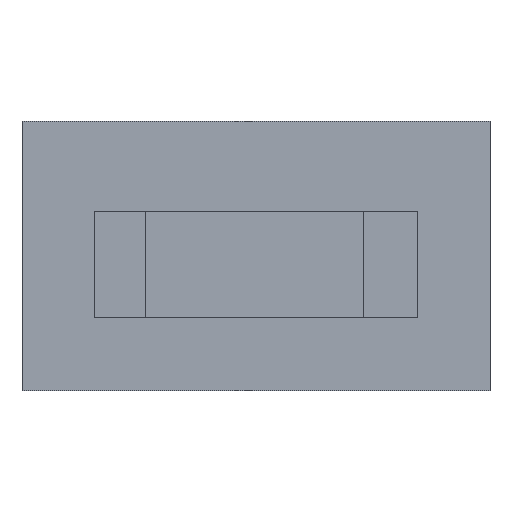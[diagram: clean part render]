
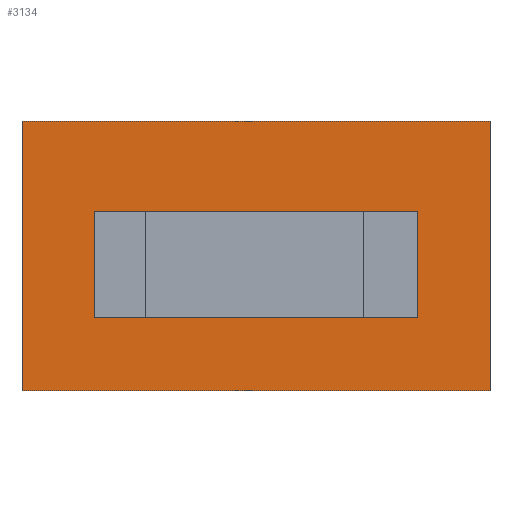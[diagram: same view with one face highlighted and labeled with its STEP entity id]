
A CAD part, front view. The second image highlights one B-rep face of the part: STEP entity #3134.
In plain terms, the highlighted planar face has unit normal (0, -1, 0).
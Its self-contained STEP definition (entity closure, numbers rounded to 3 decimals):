
#43 = PLANE('',#44);
#44 = AXIS2_PLACEMENT_3D('',#45,#46,#47);
#45 = CARTESIAN_POINT('',(-8.959,-40.,-0.035));
#46 = DIRECTION('',(0.,0.,1.));
#47 = DIRECTION('',(1.,0.,0.));
#68 = VERTEX_POINT('',#69);
#69 = CARTESIAN_POINT('',(8.986,-39.904,
    -0.035));
#83 = PLANE('',#84);
#84 = AXIS2_PLACEMENT_3D('',#85,#86,#87);
#85 = CARTESIAN_POINT('',(8.986,-40.,-0.035));
#86 = DIRECTION('',(1.,0.,0.));
#87 = DIRECTION('',(0.,0.,-1.));
#95 = EDGE_CURVE('',#96,#68,#98,.T.);
#96 = VERTEX_POINT('',#97);
#97 = CARTESIAN_POINT('',(-8.959,-39.904,
    -0.035));
#98 = SURFACE_CURVE('',#99,(#103,#110),.PCURVE_S1.);
#99 = LINE('',#100,#101);
#100 = CARTESIAN_POINT('',(2.02,-39.904,
    -0.035));
#101 = VECTOR('',#102,1.);
#102 = DIRECTION('',(1.,0.,0.));
#103 = PCURVE('',#43,#104);
#104 = DEFINITIONAL_REPRESENTATION('',(#105),#109);
#105 = LINE('',#106,#107);
#106 = CARTESIAN_POINT('',(10.98,0.096));
#107 = VECTOR('',#108,1.);
#108 = DIRECTION('',(1.,0.));
#109 = ( GEOMETRIC_REPRESENTATION_CONTEXT(2) 
PARAMETRIC_REPRESENTATION_CONTEXT() REPRESENTATION_CONTEXT('2D SPACE',''
  ) );
#110 = PCURVE('',#111,#116);
#111 = PLANE('',#112);
#112 = AXIS2_PLACEMENT_3D('',#113,#114,#115);
#113 = CARTESIAN_POINT('',(13.,-39.904,5.));
#114 = DIRECTION('',(0.,-1.,0.));
#115 = DIRECTION('',(-1.,0.,0.));
#116 = DEFINITIONAL_REPRESENTATION('',(#117),#121);
#117 = LINE('',#118,#119);
#118 = CARTESIAN_POINT('',(10.98,5.035));
#119 = VECTOR('',#120,1.);
#120 = DIRECTION('',(-1.,0.));
#121 = ( GEOMETRIC_REPRESENTATION_CONTEXT(2) 
PARAMETRIC_REPRESENTATION_CONTEXT() REPRESENTATION_CONTEXT('2D SPACE',''
  ) );
#137 = PLANE('',#138);
#138 = AXIS2_PLACEMENT_3D('',#139,#140,#141);
#139 = CARTESIAN_POINT('',(-8.959,-40.,-5.935));
#140 = DIRECTION('',(-1.,0.,0.));
#141 = DIRECTION('',(0.,0.,1.));
#176 = EDGE_CURVE('',#177,#96,#179,.T.);
#177 = VERTEX_POINT('',#178);
#178 = CARTESIAN_POINT('',(-8.959,-39.904,
    -5.935));
#179 = SURFACE_CURVE('',#180,(#184,#191),.PCURVE_S1.);
#180 = LINE('',#181,#182);
#181 = CARTESIAN_POINT('',(-8.959,-39.904,
    -0.468));
#182 = VECTOR('',#183,1.);
#183 = DIRECTION('',(0.,0.,1.));
#184 = PCURVE('',#137,#185);
#185 = DEFINITIONAL_REPRESENTATION('',(#186),#190);
#186 = LINE('',#187,#188);
#187 = CARTESIAN_POINT('',(5.468,0.096));
#188 = VECTOR('',#189,1.);
#189 = DIRECTION('',(1.,0.));
#190 = ( GEOMETRIC_REPRESENTATION_CONTEXT(2) 
PARAMETRIC_REPRESENTATION_CONTEXT() REPRESENTATION_CONTEXT('2D SPACE',''
  ) );
#191 = PCURVE('',#111,#192);
#192 = DEFINITIONAL_REPRESENTATION('',(#193),#197);
#193 = LINE('',#194,#195);
#194 = CARTESIAN_POINT('',(21.959,5.468));
#195 = VECTOR('',#196,1.);
#196 = DIRECTION('',(0.,-1.));
#197 = ( GEOMETRIC_REPRESENTATION_CONTEXT(2) 
PARAMETRIC_REPRESENTATION_CONTEXT() REPRESENTATION_CONTEXT('2D SPACE',''
  ) );
#213 = PLANE('',#214);
#214 = AXIS2_PLACEMENT_3D('',#215,#216,#217);
#215 = CARTESIAN_POINT('',(8.986,-40.,-5.935));
#216 = DIRECTION('',(0.,0.,-1.));
#217 = DIRECTION('',(-1.,0.,0.));
#252 = EDGE_CURVE('',#253,#177,#255,.T.);
#253 = VERTEX_POINT('',#254);
#254 = CARTESIAN_POINT('',(8.986,-39.904,
    -5.935));
#255 = SURFACE_CURVE('',#256,(#260,#267),.PCURVE_S1.);
#256 = LINE('',#257,#258);
#257 = CARTESIAN_POINT('',(10.993,-39.904,
    -5.935));
#258 = VECTOR('',#259,1.);
#259 = DIRECTION('',(-1.,0.,0.));
#260 = PCURVE('',#213,#261);
#261 = DEFINITIONAL_REPRESENTATION('',(#262),#266);
#262 = LINE('',#263,#264);
#263 = CARTESIAN_POINT('',(-2.007,0.096));
#264 = VECTOR('',#265,1.);
#265 = DIRECTION('',(1.,0.));
#266 = ( GEOMETRIC_REPRESENTATION_CONTEXT(2) 
PARAMETRIC_REPRESENTATION_CONTEXT() REPRESENTATION_CONTEXT('2D SPACE',''
  ) );
#267 = PCURVE('',#111,#268);
#268 = DEFINITIONAL_REPRESENTATION('',(#269),#273);
#269 = LINE('',#270,#271);
#270 = CARTESIAN_POINT('',(2.007,10.935));
#271 = VECTOR('',#272,1.);
#272 = DIRECTION('',(1.,0.));
#273 = ( GEOMETRIC_REPRESENTATION_CONTEXT(2) 
PARAMETRIC_REPRESENTATION_CONTEXT() REPRESENTATION_CONTEXT('2D SPACE',''
  ) );
#321 = EDGE_CURVE('',#68,#253,#322,.T.);
#322 = SURFACE_CURVE('',#323,(#327,#334),.PCURVE_S1.);
#323 = LINE('',#324,#325);
#324 = CARTESIAN_POINT('',(8.986,-39.904,2.482
    ));
#325 = VECTOR('',#326,1.);
#326 = DIRECTION('',(0.,0.,-1.));
#327 = PCURVE('',#83,#328);
#328 = DEFINITIONAL_REPRESENTATION('',(#329),#333);
#329 = LINE('',#330,#331);
#330 = CARTESIAN_POINT('',(-2.518,0.096));
#331 = VECTOR('',#332,1.);
#332 = DIRECTION('',(1.,0.));
#333 = ( GEOMETRIC_REPRESENTATION_CONTEXT(2) 
PARAMETRIC_REPRESENTATION_CONTEXT() REPRESENTATION_CONTEXT('2D SPACE',''
  ) );
#334 = PCURVE('',#111,#335);
#335 = DEFINITIONAL_REPRESENTATION('',(#336),#340);
#336 = LINE('',#337,#338);
#337 = CARTESIAN_POINT('',(4.014,2.518));
#338 = VECTOR('',#339,1.);
#339 = DIRECTION('',(0.,1.));
#340 = ( GEOMETRIC_REPRESENTATION_CONTEXT(2) 
PARAMETRIC_REPRESENTATION_CONTEXT() REPRESENTATION_CONTEXT('2D SPACE',''
  ) );
#1746 = PLANE('',#1747);
#1747 = AXIS2_PLACEMENT_3D('',#1748,#1749,#1750);
#1748 = CARTESIAN_POINT('',(0.,-12.852,5.));
#1749 = DIRECTION('',(0.,0.,1.));
#1750 = DIRECTION('',(1.,0.,0.));
#1858 = PLANE('',#1859);
#1859 = AXIS2_PLACEMENT_3D('',#1860,#1861,#1862);
#1860 = CARTESIAN_POINT('',(0.,-12.852,-10.));
#1861 = DIRECTION('',(0.,0.,-1.));
#1862 = DIRECTION('',(-1.,0.,0.));
#2417 = EDGE_CURVE('',#2418,#2420,#2422,.T.);
#2418 = VERTEX_POINT('',#2419);
#2419 = CARTESIAN_POINT('',(13.,-39.904,-10.));
#2420 = VERTEX_POINT('',#2421);
#2421 = CARTESIAN_POINT('',(-13.,-39.904,-10.));
#2422 = SURFACE_CURVE('',#2423,(#2427,#2434),.PCURVE_S1.);
#2423 = LINE('',#2424,#2425);
#2424 = CARTESIAN_POINT('',(-13.,-39.904,-10.));
#2425 = VECTOR('',#2426,1.);
#2426 = DIRECTION('',(-1.,0.,0.));
#2427 = PCURVE('',#1858,#2428);
#2428 = DEFINITIONAL_REPRESENTATION('',(#2429),#2433);
#2429 = LINE('',#2430,#2431);
#2430 = CARTESIAN_POINT('',(13.,-27.052));
#2431 = VECTOR('',#2432,1.);
#2432 = DIRECTION('',(1.,0.));
#2433 = ( GEOMETRIC_REPRESENTATION_CONTEXT(2) 
PARAMETRIC_REPRESENTATION_CONTEXT() REPRESENTATION_CONTEXT('2D SPACE',''
  ) );
#2434 = PCURVE('',#111,#2435);
#2435 = DEFINITIONAL_REPRESENTATION('',(#2436),#2440);
#2436 = LINE('',#2437,#2438);
#2437 = CARTESIAN_POINT('',(26.,15.));
#2438 = VECTOR('',#2439,1.);
#2439 = DIRECTION('',(1.,0.));
#2440 = ( GEOMETRIC_REPRESENTATION_CONTEXT(2) 
PARAMETRIC_REPRESENTATION_CONTEXT() REPRESENTATION_CONTEXT('2D SPACE',''
  ) );
#2458 = PLANE('',#2459);
#2459 = AXIS2_PLACEMENT_3D('',#2460,#2461,#2462);
#2460 = CARTESIAN_POINT('',(-13.,-39.904,5.));
#2461 = DIRECTION('',(-1.,0.,0.));
#2462 = DIRECTION('',(0.,1.,0.));
#2512 = PLANE('',#2513);
#2513 = AXIS2_PLACEMENT_3D('',#2514,#2515,#2516);
#2514 = CARTESIAN_POINT('',(13.,14.2,5.));
#2515 = DIRECTION('',(1.,0.,0.));
#2516 = DIRECTION('',(0.,-1.,0.));
#2972 = VERTEX_POINT('',#2973);
#2973 = CARTESIAN_POINT('',(13.,-39.904,5.));
#2994 = EDGE_CURVE('',#2972,#2418,#2995,.T.);
#2995 = SURFACE_CURVE('',#2996,(#3000,#3007),.PCURVE_S1.);
#2996 = LINE('',#2997,#2998);
#2997 = CARTESIAN_POINT('',(13.,-39.904,5.));
#2998 = VECTOR('',#2999,1.);
#2999 = DIRECTION('',(0.,0.,-1.));
#3000 = PCURVE('',#2512,#3001);
#3001 = DEFINITIONAL_REPRESENTATION('',(#3002),#3006);
#3002 = LINE('',#3003,#3004);
#3003 = CARTESIAN_POINT('',(54.104,0.));
#3004 = VECTOR('',#3005,1.);
#3005 = DIRECTION('',(0.,1.));
#3006 = ( GEOMETRIC_REPRESENTATION_CONTEXT(2) 
PARAMETRIC_REPRESENTATION_CONTEXT() REPRESENTATION_CONTEXT('2D SPACE',''
  ) );
#3007 = PCURVE('',#111,#3008);
#3008 = DEFINITIONAL_REPRESENTATION('',(#3009),#3013);
#3009 = LINE('',#3010,#3011);
#3010 = CARTESIAN_POINT('',(0.,0.));
#3011 = VECTOR('',#3012,1.);
#3012 = DIRECTION('',(0.,1.));
#3013 = ( GEOMETRIC_REPRESENTATION_CONTEXT(2) 
PARAMETRIC_REPRESENTATION_CONTEXT() REPRESENTATION_CONTEXT('2D SPACE',''
  ) );
#3090 = VERTEX_POINT('',#3091);
#3091 = CARTESIAN_POINT('',(-13.,-39.904,5.));
#3114 = EDGE_CURVE('',#3090,#2420,#3115,.T.);
#3115 = SURFACE_CURVE('',#3116,(#3120,#3127),.PCURVE_S1.);
#3116 = LINE('',#3117,#3118);
#3117 = CARTESIAN_POINT('',(-13.,-39.904,5.));
#3118 = VECTOR('',#3119,1.);
#3119 = DIRECTION('',(0.,0.,-1.));
#3120 = PCURVE('',#2458,#3121);
#3121 = DEFINITIONAL_REPRESENTATION('',(#3122),#3126);
#3122 = LINE('',#3123,#3124);
#3123 = CARTESIAN_POINT('',(0.,0.));
#3124 = VECTOR('',#3125,1.);
#3125 = DIRECTION('',(0.,1.));
#3126 = ( GEOMETRIC_REPRESENTATION_CONTEXT(2) 
PARAMETRIC_REPRESENTATION_CONTEXT() REPRESENTATION_CONTEXT('2D SPACE',''
  ) );
#3127 = PCURVE('',#111,#3128);
#3128 = DEFINITIONAL_REPRESENTATION('',(#3129),#3133);
#3129 = LINE('',#3130,#3131);
#3130 = CARTESIAN_POINT('',(26.,0.));
#3131 = VECTOR('',#3132,1.);
#3132 = DIRECTION('',(0.,1.));
#3133 = ( GEOMETRIC_REPRESENTATION_CONTEXT(2) 
PARAMETRIC_REPRESENTATION_CONTEXT() REPRESENTATION_CONTEXT('2D SPACE',''
  ) );
#3134 = ADVANCED_FACE('',(#3135,#3161),#111,.T.);
#3135 = FACE_BOUND('',#3136,.T.);
#3136 = EDGE_LOOP('',(#3137,#3158,#3159,#3160));
#3137 = ORIENTED_EDGE('',*,*,#3138,.F.);
#3138 = EDGE_CURVE('',#3090,#2972,#3139,.T.);
#3139 = SURFACE_CURVE('',#3140,(#3144,#3151),.PCURVE_S1.);
#3140 = LINE('',#3141,#3142);
#3141 = CARTESIAN_POINT('',(-13.,-39.904,5.));
#3142 = VECTOR('',#3143,1.);
#3143 = DIRECTION('',(1.,0.,0.));
#3144 = PCURVE('',#111,#3145);
#3145 = DEFINITIONAL_REPRESENTATION('',(#3146),#3150);
#3146 = LINE('',#3147,#3148);
#3147 = CARTESIAN_POINT('',(26.,0.));
#3148 = VECTOR('',#3149,1.);
#3149 = DIRECTION('',(-1.,0.));
#3150 = ( GEOMETRIC_REPRESENTATION_CONTEXT(2) 
PARAMETRIC_REPRESENTATION_CONTEXT() REPRESENTATION_CONTEXT('2D SPACE',''
  ) );
#3151 = PCURVE('',#1746,#3152);
#3152 = DEFINITIONAL_REPRESENTATION('',(#3153),#3157);
#3153 = LINE('',#3154,#3155);
#3154 = CARTESIAN_POINT('',(-13.,-27.052));
#3155 = VECTOR('',#3156,1.);
#3156 = DIRECTION('',(1.,0.));
#3157 = ( GEOMETRIC_REPRESENTATION_CONTEXT(2) 
PARAMETRIC_REPRESENTATION_CONTEXT() REPRESENTATION_CONTEXT('2D SPACE',''
  ) );
#3158 = ORIENTED_EDGE('',*,*,#3114,.T.);
#3159 = ORIENTED_EDGE('',*,*,#2417,.F.);
#3160 = ORIENTED_EDGE('',*,*,#2994,.F.);
#3161 = FACE_BOUND('',#3162,.T.);
#3162 = EDGE_LOOP('',(#3163,#3164,#3165,#3166));
#3163 = ORIENTED_EDGE('',*,*,#252,.T.);
#3164 = ORIENTED_EDGE('',*,*,#176,.T.);
#3165 = ORIENTED_EDGE('',*,*,#95,.T.);
#3166 = ORIENTED_EDGE('',*,*,#321,.T.);
